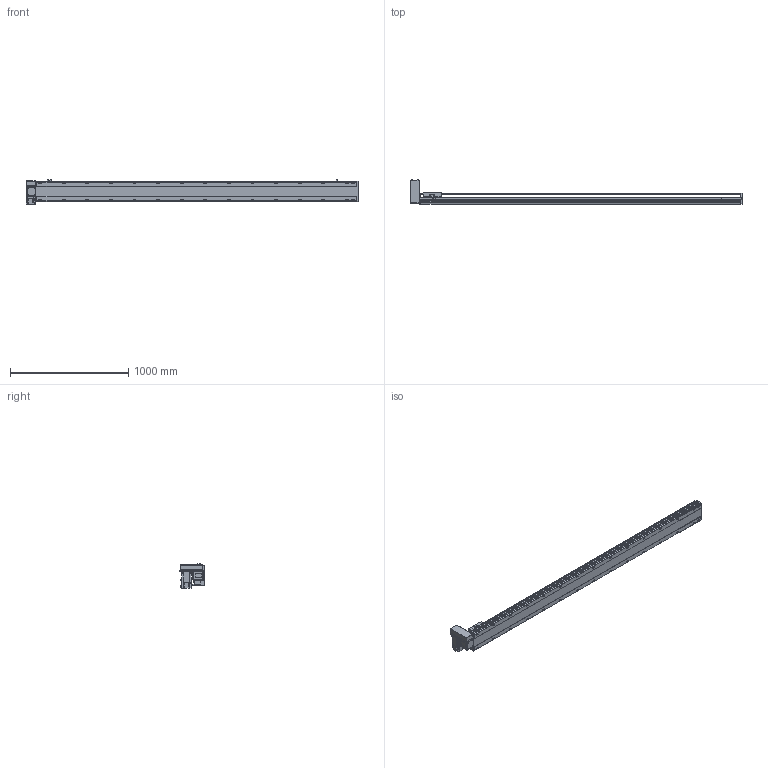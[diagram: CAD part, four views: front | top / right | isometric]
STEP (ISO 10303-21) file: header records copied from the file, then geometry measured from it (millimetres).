
FILE_DESCRIPTION( ( 'STEP AP214' ), '1' );
FILE_NAME( 'x:/temp/worker_5/temp/exporttempdir_3988_142_sdmxe/format_0/PBS170-P40-S2450-RU-T75-C1-N(0).stp', '2022-06-08T06:00:37', ( 'License CC BY-ND 4.0' ), ( 'CADENAS' ), ' ', 'PARTsolutions', ' ' );
FILE_SCHEMA( ( 'AUTOMOTIVE_DESIGN { 1 0 10303 214 1 1 1 1 }' ) );
Length unit declared in the file: millimetre
Products named in the file (7): PBS170-P40-S2450-RU-T75-C1-N(0); _PBS170-S2450()_body; _PBS170T-RU_motors; _T75-p1; _PBS170_sliser; _PBS170_plant; _PBS170_sensor
Assembly tree (8 placements, depth 2):
  PBS170-P40-S2450-RU-T75-C1-N(0)
    _PBS170-S2450()_body
    _PBS170T-RU_motors
    _T75-p1
    _PBS170_sliser
    _PBS170_plant
    _PBS170_sensor  x3
Bounding box: 2813 x 206 x 205.3 mm (x, y, z)
Volume: 21319367.1 mm3; surface area: 2687759.7 mm2
Topology: 8 solids, 8 shells, 1194 faces, 3155 edges, 2056 vertices
Faces by surface type: plane 729, cylinder 395, cone 60, sphere 8, torus 2
Full cylindrical faces by diameter (mm): 3.242 x4, 4 x2, 4.4 x4, 4.5 x6, 4.917 x4, 6 x9, 6.647 x38, 7 x2, 7.5 x4, 8 x8, 8.5 x30, 10 x4, 10.5 x30, 11 x2, 30 x2, 40 x1, 70 x1
Entity records: 44234 total; most frequent: CARTESIAN_POINT 7397, DIRECTION 5790, ORIENTED_EDGE 5448, EDGE_CURVE 2724, AXIS2_PLACEMENT_3D 2047, VERTEX_POINT 1898, LINE 1696, VECTOR 1696
